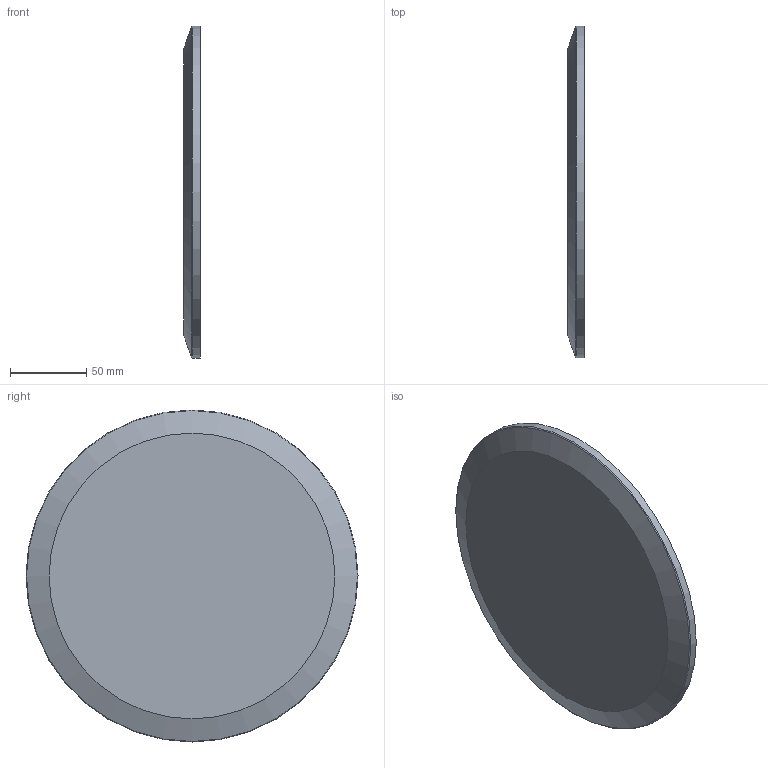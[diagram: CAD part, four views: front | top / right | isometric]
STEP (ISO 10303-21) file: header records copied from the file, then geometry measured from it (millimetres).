
FILE_DESCRIPTION(/* description */ (''),/* implementation_level */ '2;1');
FILE_NAME(/* name */ '12766-Ferrule size-217.stp',/* time_stamp */ '2024-12-26T21:15:53+01:00',/* author */ ('roger.thijssen'),/* organization */ (''),/* preprocessor_version */ 'ST-DEVELOPER v20',/* originating_system */ 'Autodesk Inventor 2025',/* authorisation */ '');
FILE_SCHEMA (('AUTOMOTIVE_DESIGN { 1 0 10303 214 3 1 1 }'));
Length unit declared in the file: millimetre
Products named in the file (1): 12766-Ferrule size-217
Bounding box: 11.1 x 217.67 x 217.67 mm (x, y, z)
Volume: 383635.2 mm3; surface area: 79749.8 mm2
Topology: 1 solids, 1 shells, 11 faces, 22 edges, 14 vertices
Faces by surface type: torus 4, cone 3, plane 3, cylinder 1
Full cylindrical faces by diameter (mm): 217.67 x1
Entity records: 361 total; most frequent: DIRECTION 64, CARTESIAN_POINT 48, ORIENTED_EDGE 44, AXIS2_PLACEMENT_3D 30, EDGE_CURVE 22, CIRCLE 18, VERTEX_POINT 14, EDGE_LOOP 12
